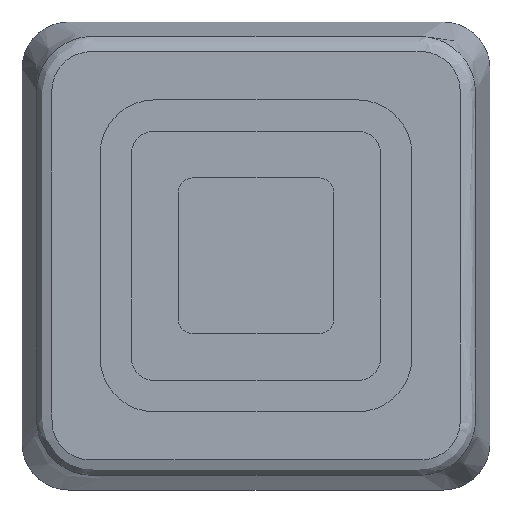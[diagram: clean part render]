
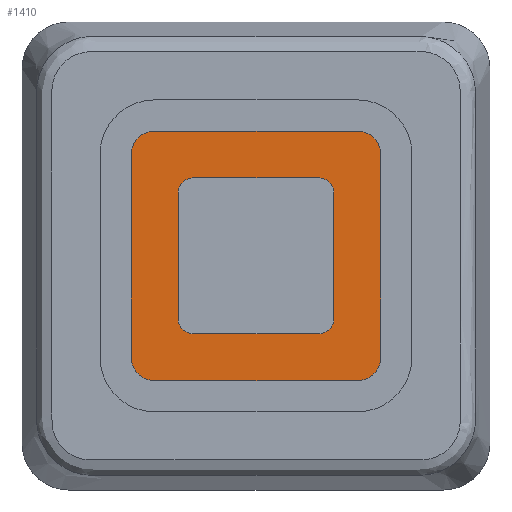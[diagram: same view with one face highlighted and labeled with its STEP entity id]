
A CAD part, top view. The second image highlights one B-rep face of the part: STEP entity #1410.
In plain terms, the highlighted planar face has unit normal (0, 0, 1).
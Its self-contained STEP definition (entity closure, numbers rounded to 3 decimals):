
#30=FACE_BOUND('',#218,.T.);
#33=CIRCLE('',#1458,0.5);
#35=CIRCLE('',#1462,0.5);
#37=CIRCLE('',#1466,0.5);
#39=CIRCLE('',#1470,0.5);
#41=CIRCLE('',#1475,0.75);
#43=CIRCLE('',#1479,0.75);
#45=CIRCLE('',#1483,0.75);
#47=CIRCLE('',#1487,0.75);
#132=FACE_OUTER_BOUND('',#217,.T.);
#217=EDGE_LOOP('',(#1112,#1113,#1114,#1115,#1116,#1117,#1118,#1119));
#218=EDGE_LOOP('',(#1120,#1121,#1122,#1123,#1124,#1125,#1126,#1127));
#264=LINE('',#1978,#417);
#269=LINE('',#1992,#422);
#273=LINE('',#2004,#426);
#277=LINE('',#2016,#430);
#280=LINE('',#2027,#433);
#285=LINE('',#2041,#438);
#289=LINE('',#2053,#442);
#293=LINE('',#2065,#446);
#417=VECTOR('',#1581,10.);
#422=VECTOR('',#1594,10.);
#426=VECTOR('',#1606,10.);
#430=VECTOR('',#1618,10.);
#433=VECTOR('',#1631,10.);
#438=VECTOR('',#1644,10.);
#442=VECTOR('',#1656,10.);
#446=VECTOR('',#1668,10.);
#570=VERTEX_POINT('',#1976);
#571=VERTEX_POINT('',#1977);
#574=VERTEX_POINT('',#1985);
#576=VERTEX_POINT('',#1991);
#578=VERTEX_POINT('',#1997);
#580=VERTEX_POINT('',#2003);
#582=VERTEX_POINT('',#2009);
#584=VERTEX_POINT('',#2015);
#586=VERTEX_POINT('',#2025);
#587=VERTEX_POINT('',#2026);
#590=VERTEX_POINT('',#2034);
#592=VERTEX_POINT('',#2040);
#594=VERTEX_POINT('',#2046);
#596=VERTEX_POINT('',#2052);
#598=VERTEX_POINT('',#2058);
#600=VERTEX_POINT('',#2064);
#700=EDGE_CURVE('',#570,#571,#264,.T.);
#704=EDGE_CURVE('',#574,#570,#33,.T.);
#707=EDGE_CURVE('',#576,#574,#269,.T.);
#710=EDGE_CURVE('',#578,#576,#35,.T.);
#713=EDGE_CURVE('',#580,#578,#273,.T.);
#716=EDGE_CURVE('',#582,#580,#37,.T.);
#719=EDGE_CURVE('',#584,#582,#277,.T.);
#722=EDGE_CURVE('',#571,#584,#39,.T.);
#724=EDGE_CURVE('',#586,#587,#280,.T.);
#728=EDGE_CURVE('',#590,#586,#41,.T.);
#731=EDGE_CURVE('',#592,#590,#285,.T.);
#734=EDGE_CURVE('',#594,#592,#43,.T.);
#737=EDGE_CURVE('',#596,#594,#289,.T.);
#740=EDGE_CURVE('',#598,#596,#45,.T.);
#743=EDGE_CURVE('',#600,#598,#293,.T.);
#746=EDGE_CURVE('',#587,#600,#47,.T.);
#1112=ORIENTED_EDGE('',*,*,#724,.T.);
#1113=ORIENTED_EDGE('',*,*,#746,.T.);
#1114=ORIENTED_EDGE('',*,*,#743,.T.);
#1115=ORIENTED_EDGE('',*,*,#740,.T.);
#1116=ORIENTED_EDGE('',*,*,#737,.T.);
#1117=ORIENTED_EDGE('',*,*,#734,.T.);
#1118=ORIENTED_EDGE('',*,*,#731,.T.);
#1119=ORIENTED_EDGE('',*,*,#728,.T.);
#1120=ORIENTED_EDGE('',*,*,#700,.T.);
#1121=ORIENTED_EDGE('',*,*,#722,.T.);
#1122=ORIENTED_EDGE('',*,*,#719,.T.);
#1123=ORIENTED_EDGE('',*,*,#716,.T.);
#1124=ORIENTED_EDGE('',*,*,#713,.T.);
#1125=ORIENTED_EDGE('',*,*,#710,.T.);
#1126=ORIENTED_EDGE('',*,*,#707,.T.);
#1127=ORIENTED_EDGE('',*,*,#704,.T.);
#1332=PLANE('',#1533);
#1410=ADVANCED_FACE('',(#132,#30),#1332,.T.);
#1458=AXIS2_PLACEMENT_3D('',#1986,#1587,#1588);
#1462=AXIS2_PLACEMENT_3D('',#1998,#1599,#1600);
#1466=AXIS2_PLACEMENT_3D('',#2010,#1611,#1612);
#1470=AXIS2_PLACEMENT_3D('',#2021,#1623,#1624);
#1475=AXIS2_PLACEMENT_3D('',#2035,#1637,#1638);
#1479=AXIS2_PLACEMENT_3D('',#2047,#1649,#1650);
#1483=AXIS2_PLACEMENT_3D('',#2059,#1661,#1662);
#1487=AXIS2_PLACEMENT_3D('',#2070,#1673,#1674);
#1533=AXIS2_PLACEMENT_3D('',#3121,#1806,#1807);
#1581=DIRECTION('',(-1.,0.,0.));
#1587=DIRECTION('center_axis',(0.,0.,-1.));
#1588=DIRECTION('ref_axis',(0.,-1.,0.));
#1594=DIRECTION('',(0.,-1.,0.));
#1599=DIRECTION('center_axis',(0.,0.,-1.));
#1600=DIRECTION('ref_axis',(1.,0.,0.));
#1606=DIRECTION('',(1.,0.,0.));
#1611=DIRECTION('center_axis',(0.,0.,-1.));
#1612=DIRECTION('ref_axis',(0.,1.,0.));
#1618=DIRECTION('',(0.,1.,0.));
#1623=DIRECTION('center_axis',(0.,0.,-1.));
#1624=DIRECTION('ref_axis',(-1.,0.,0.));
#1631=DIRECTION('',(-1.,0.,0.));
#1637=DIRECTION('center_axis',(0.,0.,1.));
#1638=DIRECTION('ref_axis',(1.,0.,0.));
#1644=DIRECTION('',(0.,1.,0.));
#1649=DIRECTION('center_axis',(0.,0.,1.));
#1650=DIRECTION('ref_axis',(0.,-1.,0.));
#1656=DIRECTION('',(1.,0.,0.));
#1661=DIRECTION('center_axis',(0.,0.,1.));
#1662=DIRECTION('ref_axis',(-1.,0.,0.));
#1668=DIRECTION('',(0.,-1.,0.));
#1673=DIRECTION('center_axis',(0.,0.,1.));
#1674=DIRECTION('ref_axis',(0.,1.,0.));
#1806=DIRECTION('center_axis',(0.,0.,1.));
#1807=DIRECTION('ref_axis',(1.,0.,0.));
#1976=CARTESIAN_POINT('',(68.,41.5,25.8));
#1977=CARTESIAN_POINT('',(64.,41.5,25.8));
#1978=CARTESIAN_POINT('',(67.205,41.5,25.8));
#1985=CARTESIAN_POINT('',(68.5,42.,25.8));
#1986=CARTESIAN_POINT('Origin',(68.,42.,25.8));
#1991=CARTESIAN_POINT('',(68.5,46.,25.8));
#1992=CARTESIAN_POINT('',(68.5,45.295,25.8));
#1997=CARTESIAN_POINT('',(68.,46.5,25.8));
#1998=CARTESIAN_POINT('Origin',(68.,46.,25.8));
#2003=CARTESIAN_POINT('',(64.,46.5,25.8));
#2004=CARTESIAN_POINT('',(65.205,46.5,25.8));
#2009=CARTESIAN_POINT('',(63.5,46.,25.8));
#2010=CARTESIAN_POINT('Origin',(64.,46.,25.8));
#2015=CARTESIAN_POINT('',(63.5,42.,25.8));
#2016=CARTESIAN_POINT('',(63.5,43.295,25.8));
#2021=CARTESIAN_POINT('Origin',(64.,42.,25.8));
#2025=CARTESIAN_POINT('',(69.25,48.,25.8));
#2026=CARTESIAN_POINT('',(62.75,48.,25.8));
#2027=CARTESIAN_POINT('',(67.83,48.,25.8));
#2034=CARTESIAN_POINT('',(70.,47.25,25.8));
#2035=CARTESIAN_POINT('Origin',(69.25,47.25,25.8));
#2040=CARTESIAN_POINT('',(70.,40.75,25.8));
#2041=CARTESIAN_POINT('',(70.,42.67,25.8));
#2046=CARTESIAN_POINT('',(69.25,40.,25.8));
#2047=CARTESIAN_POINT('Origin',(69.25,40.75,25.8));
#2052=CARTESIAN_POINT('',(62.75,40.,25.8));
#2053=CARTESIAN_POINT('',(64.58,40.,25.8));
#2058=CARTESIAN_POINT('',(62.,40.75,25.8));
#2059=CARTESIAN_POINT('Origin',(62.75,40.75,25.8));
#2064=CARTESIAN_POINT('',(62.,47.25,25.8));
#2065=CARTESIAN_POINT('',(62.,45.92,25.8));
#2070=CARTESIAN_POINT('Origin',(62.75,47.25,25.8));
#3121=CARTESIAN_POINT('Origin',(66.409,44.591,25.8));
